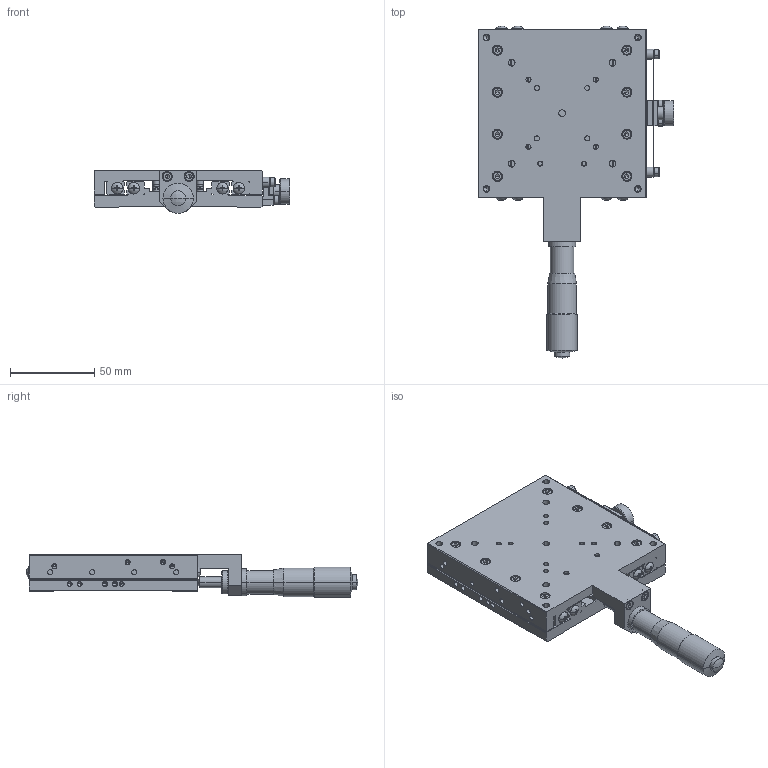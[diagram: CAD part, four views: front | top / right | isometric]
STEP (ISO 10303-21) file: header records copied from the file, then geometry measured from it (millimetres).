
FILE_DESCRIPTION (( 'STEP AP214' ), '1' );
FILE_NAME ('XM10A-C1Z.STEP', '2009-05-11T06:49:33', ( ' ' ), ( ' ' ), 'SwSTEP 2.0', 'SolidWorks 2008', '' );
FILE_SCHEMA (( 'AUTOMOTIVE_DESIGN' ));
Length unit declared in the file: millimetre
Products named in the file (5): 001130-1022(3D)-Part-2-1; 001130-1022(3D)-1; 001130-1022(3D)-Part-1-1; 001130-1011(3D)-1; XM10A-C1Z
Assembly tree (4 placements, depth 3):
  XM10A-C1Z
    001130-1022(3D)-1
      001130-1022(3D)-Part-1-1
      001130-1022(3D)-Part-2-1
    001130-1011(3D)-1
Bounding box: 116.5 x 197.37 x 25.5 mm (x, y, z)
Volume: 206375.1 mm3; surface area: 82055.4 mm2
Topology: 3 solids, 51 shells, 1702 faces, 3954 edges, 2361 vertices
Faces by surface type: plane 763, cylinder 539, cone 364, sphere 20, torus 16
Entity records: 47902 total; most frequent: DIRECTION 8945, CARTESIAN_POINT 8167, ORIENTED_EDGE 7700, EDGE_CURVE 3850, AXIS2_PLACEMENT_3D 3434, VERTEX_POINT 2361, VECTOR 2077, LINE 2077
